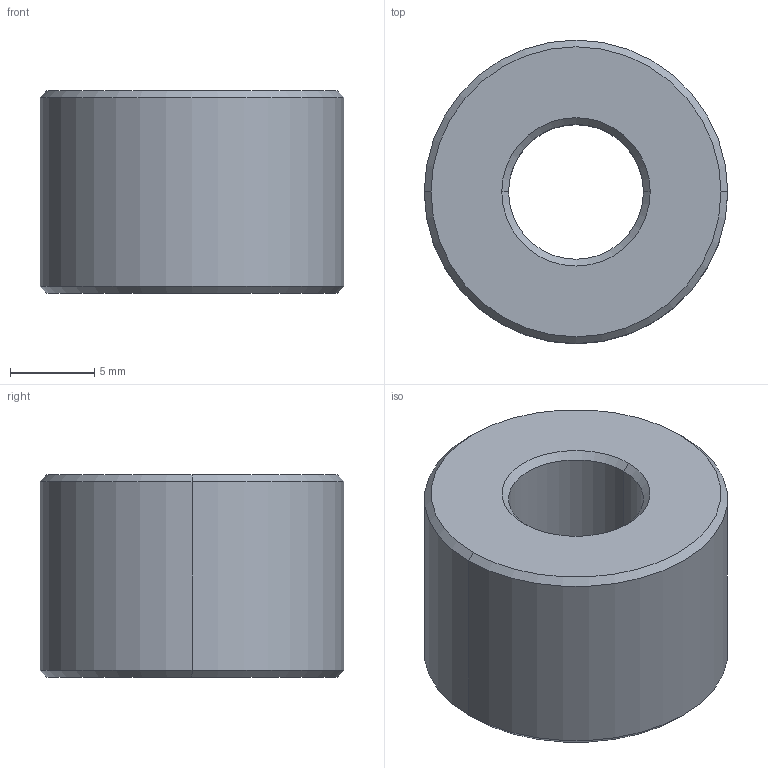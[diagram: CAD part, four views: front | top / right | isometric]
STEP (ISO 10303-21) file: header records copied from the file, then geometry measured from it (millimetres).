
FILE_DESCRIPTION (( 'STEP AP203' ), '1' );
FILE_NAME ('L1339.R08-015.step', '2024-10-24T14:07:46', ( '' ), ( '' ), 'SwSTEP 2.0', 'SolidWorks 2019', '' );
FILE_SCHEMA (( 'CONFIG_CONTROL_DESIGN' ));
Length unit declared in the file: millimetre
Products named in the file (1): L1339.R08-015
Bounding box: 18 x 18 x 12 mm (x, y, z)
Volume: 2437.4 mm3; surface area: 1350.3 mm2
Topology: 1 solids, 1 shells, 14 faces, 28 edges, 16 vertices
Faces by surface type: cone 8, cylinder 4, plane 2
Entity records: 445 total; most frequent: DIRECTION 74, CARTESIAN_POINT 59, ORIENTED_EDGE 56, AXIS2_PLACEMENT_3D 31, EDGE_CURVE 28, CIRCLE 16, EDGE_LOOP 16, VERTEX_POINT 16
